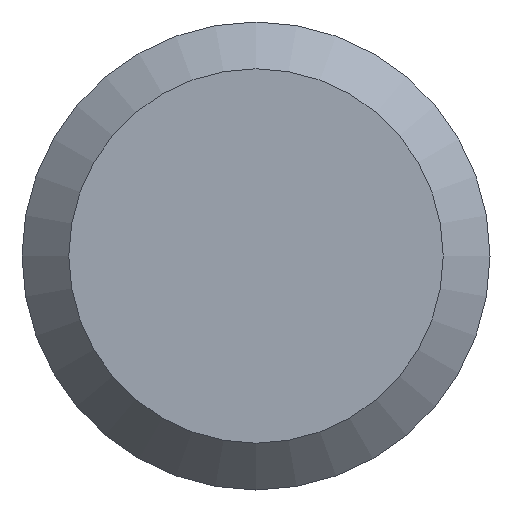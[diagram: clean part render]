
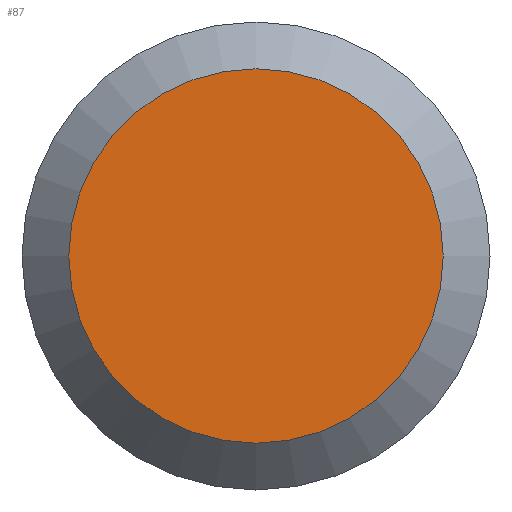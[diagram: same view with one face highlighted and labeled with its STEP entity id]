
A CAD part, left-side view. The second image highlights one B-rep face of the part: STEP entity #87.
In plain terms, the highlighted planar face has unit normal (-1, 0, 0).
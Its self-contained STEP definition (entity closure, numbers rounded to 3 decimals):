
#13 = PLANE ( 'NONE',  #197 ) ;
#23 = VERTEX_POINT ( 'NONE', #176 ) ;
#41 = EDGE_CURVE ( 'NONE', #23, #23, #163, .T. ) ;
#58 = FACE_OUTER_BOUND ( 'NONE', #70, .T. ) ;
#59 = DIRECTION ( 'NONE',  ( 1., 0., 0. ) ) ;
#70 = EDGE_LOOP ( 'NONE', ( #89 ) ) ;
#76 = CARTESIAN_POINT ( 'NONE',  ( 0., 0., 0. ) ) ;
#82 = AXIS2_PLACEMENT_3D ( 'NONE', #76, #93, #213 ) ;
#86 = DIRECTION ( 'NONE',  ( 0., 0., -1. ) ) ;
#87 = ADVANCED_FACE ( 'NONE', ( #58 ), #13, .F. ) ;
#89 = ORIENTED_EDGE ( 'NONE', *, *, #41, .T. ) ;
#93 = DIRECTION ( 'NONE',  ( -1., 0., 0. ) ) ;
#163 = CIRCLE ( 'NONE', #82, 7.62 ) ;
#176 = CARTESIAN_POINT ( 'NONE',  ( 0., 0., -7.62 ) ) ;
#191 = CARTESIAN_POINT ( 'NONE',  ( 0., 9.525, 0. ) ) ;
#197 = AXIS2_PLACEMENT_3D ( 'NONE', #191, #59, #86 ) ;
#213 = DIRECTION ( 'NONE',  ( 0., 0., -1. ) ) ;
